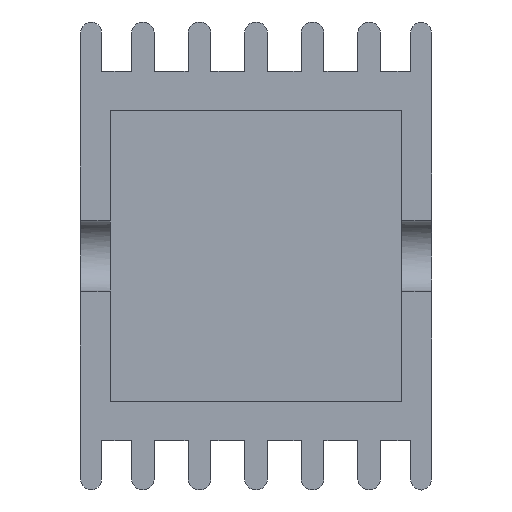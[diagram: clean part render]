
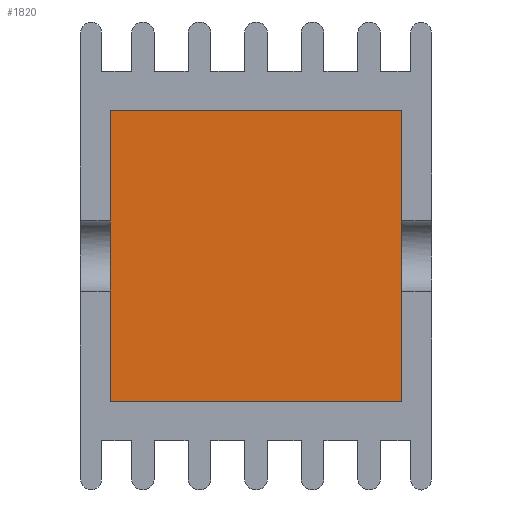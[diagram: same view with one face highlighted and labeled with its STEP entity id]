
A CAD part, left-side view. The second image highlights one B-rep face of the part: STEP entity #1820.
In plain terms, the highlighted planar face has unit normal (-1, 0, 0).
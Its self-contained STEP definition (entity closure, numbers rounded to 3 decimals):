
#14=LINE($,#2593,#218);
#15=LINE($,#2597,#219);
#16=LINE($,#2599,#220);
#17=LINE($,#2601,#221);
#18=LINE($,#2603,#222);
#19=LINE($,#2605,#223);
#20=LINE($,#2606,#224);
#21=LINE($,#2607,#225);
#218=VECTOR($,#2092,2.291);
#219=VECTOR($,#2095,22.4);
#220=VECTOR($,#2096,10.054);
#221=VECTOR($,#2097,2.291);
#222=VECTOR($,#2098,10.054);
#223=VECTOR($,#2099,22.4);
#224=VECTOR($,#2100,10.054);
#225=VECTOR($,#2101,10.054);
#425=PLANE($,#1924);
#502=FACE_OUTER_BOUND($,#597,.T.);
#597=EDGE_LOOP($,(#1186,#1187,#1188,#1189,#1190,#1191,#1192,#1193));
#750=VERTEX_POINT($,#2590);
#751=VERTEX_POINT($,#2591);
#752=VERTEX_POINT($,#2595);
#753=VERTEX_POINT($,#2596);
#754=VERTEX_POINT($,#2598);
#755=VERTEX_POINT($,#2600);
#756=VERTEX_POINT($,#2602);
#757=VERTEX_POINT($,#2604);
#923=EDGE_CURVE($,#750,#751,#14,.T.);
#924=EDGE_CURVE($,#752,#753,#15,.T.);
#925=EDGE_CURVE($,#754,#752,#16,.T.);
#926=EDGE_CURVE($,#754,#755,#17,.T.);
#927=EDGE_CURVE($,#756,#755,#18,.T.);
#928=EDGE_CURVE($,#757,#756,#19,.T.);
#929=EDGE_CURVE($,#750,#757,#20,.T.);
#930=EDGE_CURVE($,#753,#751,#21,.T.);
#1186=ORIENTED_EDGE($,*,*,#924,.F.);
#1187=ORIENTED_EDGE($,*,*,#925,.F.);
#1188=ORIENTED_EDGE($,*,*,#926,.T.);
#1189=ORIENTED_EDGE($,*,*,#927,.F.);
#1190=ORIENTED_EDGE($,*,*,#928,.F.);
#1191=ORIENTED_EDGE($,*,*,#929,.F.);
#1192=ORIENTED_EDGE($,*,*,#923,.T.);
#1193=ORIENTED_EDGE($,*,*,#930,.F.);
#1820=ADVANCED_FACE($,(#502),#425,.T.);
#1924=AXIS2_PLACEMENT_3D($,#2594,#2093,#2094);
#2092=DIRECTION($,(0.,0.,1.));
#2093=DIRECTION('center_axis',(-1.,0.,0.));
#2094=DIRECTION('ref_axis',(0.,0.,1.));
#2095=DIRECTION($,(0.,-1.,0.));
#2096=DIRECTION($,(0.,0.,1.));
#2097=DIRECTION($,(0.,0.,-1.));
#2098=DIRECTION($,(0.,0.,1.));
#2099=DIRECTION($,(0.,1.,0.));
#2100=DIRECTION($,(0.,0.,-1.));
#2101=DIRECTION($,(0.,0.,-1.));
#2590=CARTESIAN_POINT('',(-157.312,7.001,25.692));
#2591=CARTESIAN_POINT('',(-157.312,7.001,27.983));
#2593=CARTESIAN_POINT($,(-157.312,7.001,38.037));
#2594=CARTESIAN_POINT('Origin',(-157.312,18.201,26.837));
#2595=CARTESIAN_POINT('',(-157.312,29.401,38.037));
#2596=CARTESIAN_POINT('',(-157.312,7.001,38.037));
#2597=CARTESIAN_POINT($,(-157.312,12.601,38.037));
#2598=CARTESIAN_POINT('',(-157.312,29.401,27.983));
#2599=CARTESIAN_POINT($,(-157.312,29.401,32.437));
#2600=CARTESIAN_POINT('',(-157.312,29.401,25.692));
#2601=CARTESIAN_POINT($,(-157.312,29.401,15.637));
#2602=CARTESIAN_POINT('',(-157.312,29.401,15.637));
#2603=CARTESIAN_POINT($,(-157.312,29.401,32.437));
#2604=CARTESIAN_POINT('',(-157.312,7.001,15.637));
#2605=CARTESIAN_POINT($,(-157.312,23.801,15.637));
#2606=CARTESIAN_POINT($,(-157.312,7.001,21.237));
#2607=CARTESIAN_POINT($,(-157.312,7.001,21.237));
